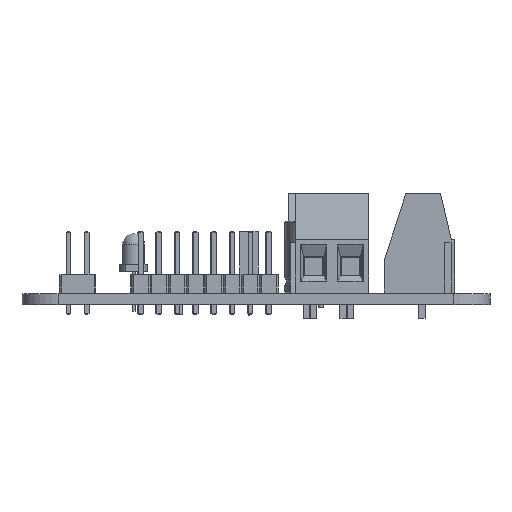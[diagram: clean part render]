
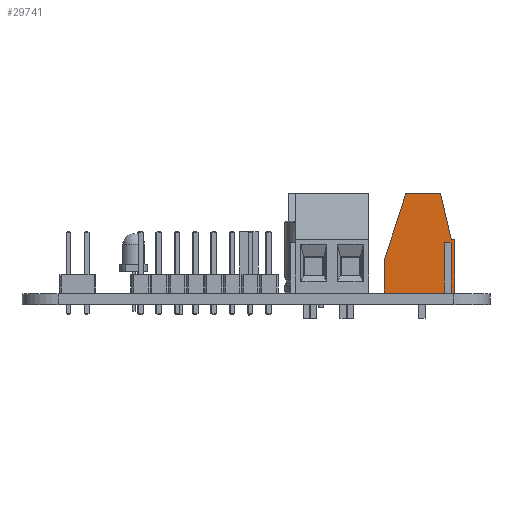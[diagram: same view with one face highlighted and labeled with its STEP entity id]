
A CAD part, left-side view. The second image highlights one B-rep face of the part: STEP entity #29741.
In plain terms, the highlighted planar face has unit normal (-1, 0, 0).
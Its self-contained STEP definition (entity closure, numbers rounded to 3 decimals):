
#29573 = EDGE_CURVE('',#29574,#29576,#29578,.T.);
#29574 = VERTEX_POINT('',#29575);
#29575 = CARTESIAN_POINT('',(-2.54,-4.6,0.));
#29576 = VERTEX_POINT('',#29577);
#29577 = CARTESIAN_POINT('',(-2.54,-3.83,0.));
#29578 = LINE('',#29579,#29580);
#29579 = CARTESIAN_POINT('',(-2.54,-4.6,0.));
#29580 = VECTOR('',#29581,1.);
#29581 = DIRECTION('',(0.,1.,0.));
#29632 = VERTEX_POINT('',#29633);
#29633 = CARTESIAN_POINT('',(-2.54,5.2,0.));
#29639 = EDGE_CURVE('',#29640,#29632,#29642,.T.);
#29640 = VERTEX_POINT('',#29641);
#29641 = CARTESIAN_POINT('',(-2.54,-3.37,0.));
#29642 = LINE('',#29643,#29644);
#29643 = CARTESIAN_POINT('',(-2.54,-4.6,0.));
#29644 = VECTOR('',#29645,1.);
#29645 = DIRECTION('',(0.,1.,0.));
#29741 = ADVANCED_FACE('',(#29742),#29814,.F.);
#29742 = FACE_BOUND('',#29743,.F.);
#29743 = EDGE_LOOP('',(#29744,#29754,#29762,#29768,#29769,#29777,#29785,
    #29791,#29792,#29800,#29808));
#29744 = ORIENTED_EDGE('',*,*,#29745,.T.);
#29745 = EDGE_CURVE('',#29746,#29748,#29750,.T.);
#29746 = VERTEX_POINT('',#29747);
#29747 = CARTESIAN_POINT('',(-2.54,-2.6,13.8));
#29748 = VERTEX_POINT('',#29749);
#29749 = CARTESIAN_POINT('',(-2.54,-4.1,7.4));
#29750 = LINE('',#29751,#29752);
#29751 = CARTESIAN_POINT('',(-2.54,-2.6,13.8));
#29752 = VECTOR('',#29753,1.);
#29753 = DIRECTION('',(0.,-0.228,-0.974));
#29754 = ORIENTED_EDGE('',*,*,#29755,.T.);
#29755 = EDGE_CURVE('',#29748,#29756,#29758,.T.);
#29756 = VERTEX_POINT('',#29757);
#29757 = CARTESIAN_POINT('',(-2.54,-4.6,7.4));
#29758 = LINE('',#29759,#29760);
#29759 = CARTESIAN_POINT('',(-2.54,-4.1,7.4));
#29760 = VECTOR('',#29761,1.);
#29761 = DIRECTION('',(0.,-1.,0.));
#29762 = ORIENTED_EDGE('',*,*,#29763,.T.);
#29763 = EDGE_CURVE('',#29756,#29574,#29764,.T.);
#29764 = LINE('',#29765,#29766);
#29765 = CARTESIAN_POINT('',(-2.54,-4.6,13.8));
#29766 = VECTOR('',#29767,1.);
#29767 = DIRECTION('',(0.,0.,-1.));
#29768 = ORIENTED_EDGE('',*,*,#29573,.T.);
#29769 = ORIENTED_EDGE('',*,*,#29770,.T.);
#29770 = EDGE_CURVE('',#29576,#29771,#29773,.T.);
#29771 = VERTEX_POINT('',#29772);
#29772 = CARTESIAN_POINT('',(-2.54,-3.83,7.));
#29773 = LINE('',#29774,#29775);
#29774 = CARTESIAN_POINT('',(-2.54,-3.83,0.));
#29775 = VECTOR('',#29776,1.);
#29776 = DIRECTION('',(0.,0.,1.));
#29777 = ORIENTED_EDGE('',*,*,#29778,.T.);
#29778 = EDGE_CURVE('',#29771,#29779,#29781,.T.);
#29779 = VERTEX_POINT('',#29780);
#29780 = CARTESIAN_POINT('',(-2.54,-3.37,7.));
#29781 = LINE('',#29782,#29783);
#29782 = CARTESIAN_POINT('',(-2.54,-3.83,7.));
#29783 = VECTOR('',#29784,1.);
#29784 = DIRECTION('',(0.,1.,0.));
#29785 = ORIENTED_EDGE('',*,*,#29786,.F.);
#29786 = EDGE_CURVE('',#29640,#29779,#29787,.T.);
#29787 = LINE('',#29788,#29789);
#29788 = CARTESIAN_POINT('',(-2.54,-3.37,0.));
#29789 = VECTOR('',#29790,1.);
#29790 = DIRECTION('',(0.,0.,1.));
#29791 = ORIENTED_EDGE('',*,*,#29639,.T.);
#29792 = ORIENTED_EDGE('',*,*,#29793,.T.);
#29793 = EDGE_CURVE('',#29632,#29794,#29796,.T.);
#29794 = VERTEX_POINT('',#29795);
#29795 = CARTESIAN_POINT('',(-2.54,5.2,4.57));
#29796 = LINE('',#29797,#29798);
#29797 = CARTESIAN_POINT('',(-2.54,5.2,0.));
#29798 = VECTOR('',#29799,1.);
#29799 = DIRECTION('',(0.,0.,1.));
#29800 = ORIENTED_EDGE('',*,*,#29801,.F.);
#29801 = EDGE_CURVE('',#29802,#29794,#29804,.T.);
#29802 = VERTEX_POINT('',#29803);
#29803 = CARTESIAN_POINT('',(-2.54,2.2,13.8));
#29804 = LINE('',#29805,#29806);
#29805 = CARTESIAN_POINT('',(-2.54,2.2,13.8));
#29806 = VECTOR('',#29807,1.);
#29807 = DIRECTION('',(0.,0.309,-0.951));
#29808 = ORIENTED_EDGE('',*,*,#29809,.T.);
#29809 = EDGE_CURVE('',#29802,#29746,#29810,.T.);
#29810 = LINE('',#29811,#29812);
#29811 = CARTESIAN_POINT('',(-2.54,5.2,13.8));
#29812 = VECTOR('',#29813,1.);
#29813 = DIRECTION('',(0.,-1.,0.));
#29814 = PLANE('',#29815);
#29815 = AXIS2_PLACEMENT_3D('',#29816,#29817,#29818);
#29816 = CARTESIAN_POINT('',(-2.54,0.3,6.9));
#29817 = DIRECTION('',(1.,0.,0.));
#29818 = DIRECTION('',(-0.,0.,1.));
